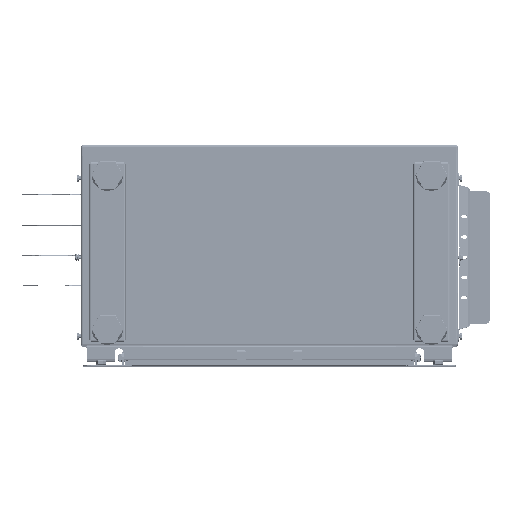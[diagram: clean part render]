
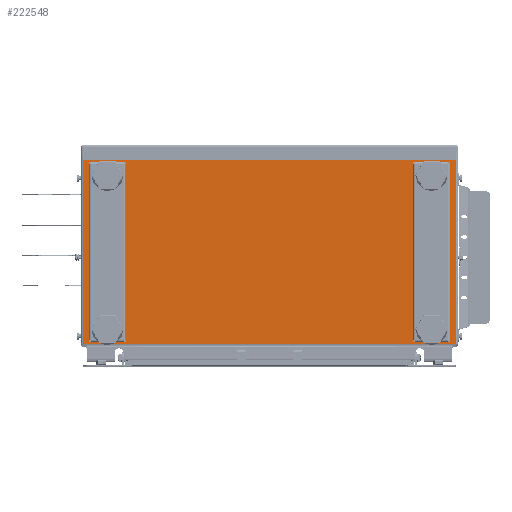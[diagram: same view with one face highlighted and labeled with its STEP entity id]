
A CAD part, top view. The second image highlights one B-rep face of the part: STEP entity #222548.
In plain terms, the highlighted planar face has unit normal (0, 0, 1).
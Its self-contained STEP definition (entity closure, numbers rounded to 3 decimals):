
#34967 = DIRECTION ( 'NONE',  ( 0., 1., 0. ) ) ;
#73815 = ORIENTED_EDGE ( 'NONE', *, *, #735980, .T. ) ;
#83175 = VERTEX_POINT ( 'NONE', #305957 ) ;
#102384 = LINE ( 'NONE', #654829, #500049 ) ;
#104211 = CARTESIAN_POINT ( 'NONE',  ( -230.5, 228.2, 450. ) ) ;
#108575 = CARTESIAN_POINT ( 'NONE',  ( -230.5, 2., 450. ) ) ;
#120945 = DIRECTION ( 'NONE',  ( -1., 0., 0. ) ) ;
#121870 = EDGE_CURVE ( 'NONE', #386691, #83175, #466474, .T. ) ;
#146924 = LINE ( 'NONE', #627495, #540684 ) ;
#166052 = AXIS2_PLACEMENT_3D ( 'NONE', #873095, #342797, #603647 ) ;
#179115 = ORIENTED_EDGE ( 'NONE', *, *, #870868, .T. ) ;
#222548 = ADVANCED_FACE ( 'NONE', ( #599226 ), #801358, .T. ) ;
#237330 = EDGE_CURVE ( 'NONE', #413542, #574778, #597115, .T. ) ;
#284544 = VECTOR ( 'NONE', #120945, 1000. ) ;
#305957 = CARTESIAN_POINT ( 'NONE',  ( 230.5, 228.2, 450. ) ) ;
#331781 = EDGE_LOOP ( 'NONE', ( #73815, #653348, #179115, #860705 ) ) ;
#336284 = CARTESIAN_POINT ( 'NONE',  ( 230.5, 2., 450. ) ) ;
#342797 = DIRECTION ( 'NONE',  ( 0., 0., 1. ) ) ;
#386691 = VERTEX_POINT ( 'NONE', #104211 ) ;
#399104 = DIRECTION ( 'NONE',  ( 1., 0., 0. ) ) ;
#413542 = VERTEX_POINT ( 'NONE', #880238 ) ;
#434060 = DIRECTION ( 'NONE',  ( 0., -1., 0. ) ) ;
#466474 = LINE ( 'NONE', #619046, #605303 ) ;
#500049 = VECTOR ( 'NONE', #34967, 1000. ) ;
#540684 = VECTOR ( 'NONE', #434060, 1000. ) ;
#574778 = VERTEX_POINT ( 'NONE', #108575 ) ;
#597115 = LINE ( 'NONE', #336284, #284544 ) ;
#599226 = FACE_OUTER_BOUND ( 'NONE', #331781, .T. ) ;
#603647 = DIRECTION ( 'NONE',  ( 1., 0., 0. ) ) ;
#605303 = VECTOR ( 'NONE', #399104, 1000. ) ;
#619046 = CARTESIAN_POINT ( 'NONE',  ( -230.5, 228.2, 450. ) ) ;
#627495 = CARTESIAN_POINT ( 'NONE',  ( -230.5, 228.2, 450. ) ) ;
#653348 = ORIENTED_EDGE ( 'NONE', *, *, #121870, .F. ) ;
#654829 = CARTESIAN_POINT ( 'NONE',  ( 230.5, 2., 450. ) ) ;
#735980 = EDGE_CURVE ( 'NONE', #413542, #83175, #102384, .T. ) ;
#801358 = PLANE ( 'NONE',  #166052 ) ;
#860705 = ORIENTED_EDGE ( 'NONE', *, *, #237330, .F. ) ;
#870868 = EDGE_CURVE ( 'NONE', #386691, #574778, #146924, .T. ) ;
#873095 = CARTESIAN_POINT ( 'NONE',  ( -257.5, 0., 450. ) ) ;
#880238 = CARTESIAN_POINT ( 'NONE',  ( 230.5, 2., 450. ) ) ;
